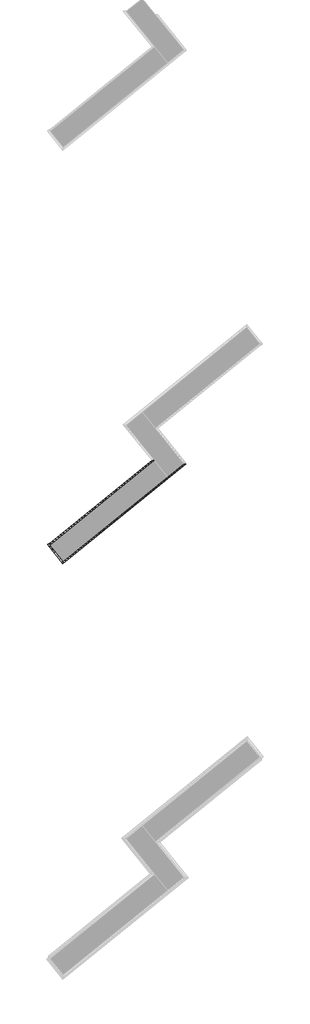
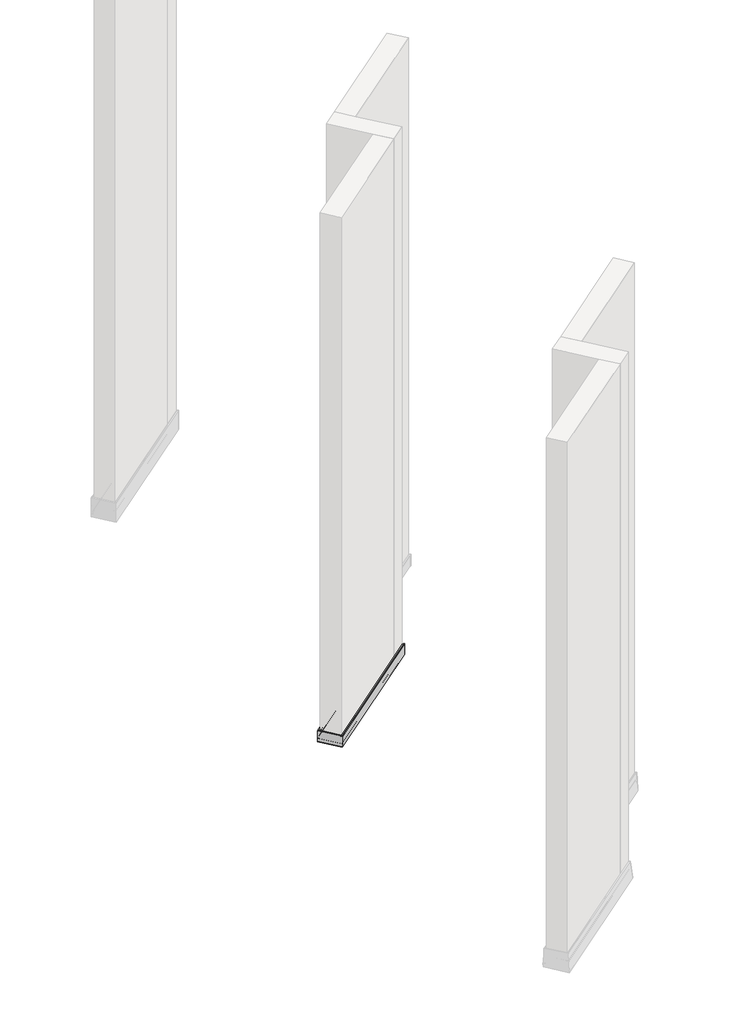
# One storey, part 6 of 21: 2 proxies.
"""IFC4 building model written with IfcOpenShell, lengths in millimetres."""

from ifc_helpers import new_model, si_unit, frame, origin, place, context, project, spatial, circle_curve, ellipse_curve, element, save
from ifc_brep_helpers import plane_surface, cylinder_surface, advanced_brep

model = new_model("IFC4")

# Units and contexts
model_context = context("Model", 3, world=origin())
ifc_project = project(units=[si_unit("LENGTHUNIT", "METRE", prefix="MILLI")], contexts=[model_context])

# Site, building, storey
site = spatial("IfcSite", under=ifc_project)
building = spatial("IfcBuilding", under=site)
storey = spatial("IfcBuildingStorey", under=building, Name="Izofleks 2D View", Elevation=0.0)

# Proxies
placement = place(None, origin())
element("IfcBuildingElementProxy", 1, Name="Wall Sweeps", at=placement, inside=storey, context=model_context, shape_type="AdvancedBrep", body=[
    advanced_brep(
    [(2430.6173319, -7345.0603665, 49.8941385), (2432.307842, -7345.2380463, 56.3978398), (2433.6908876, -7345.3834102, 57.2161063), (2437.3944482, -7345.7726701, 57.2161063), (2437.3944482, -7345.7726701, 58.5), (2427.9711237, -7344.7822388, 58.5), (2427.9711237, -7344.7822388, 60.0), (2439.2228545, -7345.9648434, 60.0), (2439.2228545, -7345.9648434, 2.9583289), (2436.4094999, -7345.6691479, 2.9583289), (2436.4094999, -7345.6691479, 0.4656126), (2434.5810936, -7345.4769746, 0.4656126), (2434.5810936, -7345.4769746, 4.2583289), (2437.3944482, -7345.7726701, 4.2583289), (2437.3944482, -7345.7726701, 28.7655004), (2434.0080992, -7345.4167505, 28.7655004), (2433.7384472, -7345.3884089, 27.7479135), (2435.1018647, -7345.5317099, 27.7479135), (2435.7872524, -7345.603747, 27.1404306), (2433.0506843, -7345.3161221, 18.30079), (2435.3427515, -7345.5570281, 18.30079), (2435.3488299, -7345.557667, 16.99999), (2428.316906, -7344.818582, 16.99999), (2428.316906, -7344.818582, 0.0), (2426.4885138, -7344.6264102, 0.0), (2426.4885138, -7344.6264102, 54.99999), (2428.316906, -7344.818582, 53.99999), (2428.316906, -7344.818582, 47.88979), (2431.1767584, -7345.1191646, 47.88979), (2431.7634513, -7345.1808285, 48.7266957), (1772.674573, -7733.6599402, 49.8941385), (1772.0412823, -7734.1727689, 48.7266957), (1772.3654607, -7733.9102544, 47.88979), (1773.9456782, -7732.6306195, 47.88979), (1773.9456782, -7732.6306195, 53.99999), (1774.9559602, -7731.8125092, 54.99999), (1774.9559602, -7731.8125092, 0.0), (1773.9456782, -7732.6306195, 0.0), (1773.9456782, -7732.6306195, 16.99999), (1770.0601738, -7735.7770389, 16.99999), (1770.0635324, -7735.7743192, 18.30079), (1771.330019, -7734.7487385, 18.30079), (1769.8179225, -7735.9732101, 27.1404306), (1770.1966349, -7735.6665349, 27.7479135), (1770.9499942, -7735.0564766, 27.7479135), (1770.8009974, -7735.1771318, 28.7655004), (1768.929863, -7736.6923465, 28.7655004), (1768.929863, -7736.6923465, 4.2583289), (1770.4843881, -7735.4335169, 4.2583289), (1770.4843881, -7735.4335169, 0.4656126), (1769.4740984, -7736.2516335, 0.4656126), (1769.4740984, -7736.2516335, 2.9583289), (1767.9195733, -7737.510463, 2.9583289), (1767.9195733, -7737.510463, 60.0), (1774.136741, -7732.4758999, 60.0), (1774.136741, -7732.4758999, 58.5), (1768.929863, -7736.6923465, 58.5), (1768.929863, -7736.6923465, 57.2161063), (1770.9762733, -7735.0351961, 57.2161063), (1771.7404781, -7734.4163553, 56.3978398), (1843.1950864, -7820.7455216, 49.8941385), (1843.0174067, -7822.4360317, 56.3978398), (1842.8720427, -7823.8190773, 57.2161063), (1842.4827828, -7827.522638, 57.2161063), (1842.4827828, -7827.522638, 58.5), (1843.4732141, -7818.0993134, 58.5), (1843.4732141, -7818.0993134, 60.0), (1842.2906095, -7829.3510442, 60.0), (1842.2906095, -7829.3510442, 2.9583289), (1842.586305, -7826.5376896, 2.9583289), (1842.586305, -7826.5376896, 0.4656126), (1842.7784783, -7824.7092833, 0.4656126), (1842.7784783, -7824.7092833, 4.2583289), (1842.4827828, -7827.522638, 4.2583289), (1842.4827828, -7827.522638, 28.7655004), (1842.8387024, -7824.1362889, 28.7655004), (1842.867044, -7823.8666369, 27.7479135), (1842.723743, -7825.2300544, 27.7479135), (1842.6517059, -7825.9154421, 27.1404306), (1842.9393308, -7823.178874, 18.30079), (1842.6984248, -7825.4709412, 18.30079), (1842.6977859, -7825.4770196, 16.99999), (1843.4368709, -7818.4450957, 16.99999), (1843.4368709, -7818.4450957, 0.0), (1843.6290427, -7816.6167035, 0.0), (2348.7739176, -7407.5584493, 0.0), (1843.6290427, -7816.6167035, 54.99999), (1843.4368709, -7818.4450957, 53.99999), (1843.4368709, -7818.4450957, 47.88979), (1843.1362883, -7821.3049481, 47.88979), (1843.0746244, -7821.891641, 48.7266957), (1780.6970036, -7738.9021074, 0.0)],
    [
        (0, 1),
        (1, 2, ellipse_curve(frame((2433.6908876, -7345.3834102, 56.2161063), z_axis=(0.1045284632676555, 0.9945218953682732, 0.0), x_axis=(0.9945218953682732, -0.10452846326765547, 0.0)), 1.4142136, 1.0)),
        (2, 3),
        (3, 4),
        (4, 5),
        (5, 6),
        (6, 7),
        (7, 8),
        (8, 9),
        (9, 10),
        (10, 11),
        (11, 12),
        (12, 13),
        (13, 14),
        (14, 15),
        (15, 16),
        (16, 17),
        (17, 18, ellipse_curve(frame((2435.1004582, -7345.5315621, 27.2479135), z_axis=(0.1045284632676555, 0.9945218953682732, 0.0), x_axis=(0.9945218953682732, -0.10452846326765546, 0.0)), 0.7071082, 0.500001)),
        (18, 19),
        (19, 20),
        (20, 21, ellipse_curve(frame((2435.1785737, -7345.5397723, 17.649995), z_axis=(0.1045284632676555, 0.9945218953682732, 0.0), x_axis=(0.9945218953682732, -0.10452846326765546, 0.0)), 0.935051, 0.6611809)),
        (21, 22),
        (22, 23),
        (23, 24),
        (24, 25),
        (25, 26, ellipse_curve(frame((2426.8389918, -7344.663247, 53.9789482), z_axis=(0.1045284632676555, 0.9945218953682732, 0.0), x_axis=(0.9945218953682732, -0.10452846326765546, 0.0)), 1.4863528, 1.0510102)),
        (26, 27),
        (27, 28),
        (28, 29),
        (29, 0, ellipse_curve(frame((2432.0003775, -7345.2057304, 49.712405), z_axis=(0.1045284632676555, 0.9945218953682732, 0.0), x_axis=(0.9945218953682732, -0.10452846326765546, 0.0)), 1.4142136, 1.0)),
        (30, 31, circle_curve(frame((1771.9103682, -7734.278781, 49.712405), z_axis=(-0.629320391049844, 0.7771459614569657, 0.0), x_axis=(-0.7771459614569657, -0.629320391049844, 0.0)), 1.0)),
        (31, 32),
        (32, 33),
        (33, 34),
        (34, 35, circle_curve(frame((1774.7623028, -7731.9693299, 53.9789482), z_axis=(-0.629320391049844, 0.7771459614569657, 0.0), x_axis=(-0.7771459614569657, -0.629320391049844, 0.0)), 1.0510102)),
        (35, 36),
        (36, 37),
        (37, 38),
        (38, 39),
        (39, 40, circle_curve(frame((1770.1542492, -7735.7008582, 17.649995), z_axis=(-0.629320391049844, 0.7771459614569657, 0.0), x_axis=(-0.7771459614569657, -0.629320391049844, 0.0)), 0.6611809)),
        (40, 41),
        (41, 42),
        (42, 43, circle_curve(frame((1770.1974121, -7735.6659056, 27.2479135), z_axis=(-0.629320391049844, 0.7771459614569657, 0.0), x_axis=(-0.7771459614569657, -0.629320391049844, 0.0)), 0.500001)),
        (43, 44),
        (44, 45),
        (45, 46),
        (46, 47),
        (47, 48),
        (48, 49),
        (49, 50),
        (50, 51),
        (51, 52),
        (52, 53),
        (53, 54),
        (54, 55),
        (55, 56),
        (56, 57),
        (57, 58),
        (58, 59, circle_curve(frame((1770.9762733, -7735.0351961, 56.2161063), z_axis=(-0.629320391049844, 0.7771459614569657, 0.0), x_axis=(0.7642047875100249, 0.618840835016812, 0.1817334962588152)), 1.0)),
        (59, 30),
        (0, 60),
        (60, 61),
        (61, 1),
        (61, 62, ellipse_curve(frame((1842.8720427, -7823.8190773, 56.2161063), z_axis=(0.9945218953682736, -0.10452846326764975, 0.0), x_axis=(0.10452846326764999, 0.9945218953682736, 0.0)), 1.4142136, 1.0)),
        (62, 2),
        (62, 63),
        (63, 3),
        (63, 64),
        (64, 4),
        (64, 65),
        (65, 5),
        (65, 66),
        (66, 6),
        (66, 67),
        (67, 7),
        (67, 68),
        (68, 8),
        (68, 69),
        (69, 9),
        (69, 70),
        (70, 10),
        (70, 71),
        (71, 11),
        (71, 72),
        (72, 12),
        (72, 73),
        (73, 13),
        (73, 74),
        (74, 14),
        (74, 75),
        (75, 15),
        (75, 76),
        (76, 16),
        (76, 77),
        (77, 17),
        (77, 78, ellipse_curve(frame((1842.7238909, -7825.228648, 27.2479135), z_axis=(0.9945218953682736, -0.10452846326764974, 0.0), x_axis=(0.10452846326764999, 0.9945218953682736, 0.0)), 0.7071082, 0.500001)),
        (78, 18),
        (78, 79),
        (79, 19),
        (79, 80),
        (80, 20),
        (80, 81, ellipse_curve(frame((1842.7156806, -7825.3067635, 17.649995), z_axis=(0.9945218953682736, -0.10452846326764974, 0.0), x_axis=(0.10452846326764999, 0.9945218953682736, 0.0)), 0.935051, 0.6611809)),
        (81, 21),
        (81, 82),
        (82, 22),
        (82, 83),
        (83, 23),
        (83, 84),
        (84, 85),
        (85, 24),
        (84, 86),
        (86, 25),
        (86, 87, ellipse_curve(frame((1843.592206, -7816.9671816, 53.9789482), z_axis=(0.9945218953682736, -0.10452846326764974, 0.0), x_axis=(0.10452846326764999, 0.9945218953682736, 0.0)), 1.4863528, 1.0510102)),
        (87, 26),
        (87, 88),
        (88, 27),
        (88, 89),
        (89, 28),
        (89, 90),
        (90, 29),
        (90, 60, ellipse_curve(frame((1843.0497225, -7822.1285673, 49.712405), z_axis=(0.9945218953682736, -0.10452846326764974, 0.0), x_axis=(0.10452846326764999, 0.9945218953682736, 0.0)), 1.4142136, 1.0)),
        (60, 30),
        (59, 61),
        (58, 62),
        (57, 63),
        (56, 64),
        (55, 65),
        (54, 66),
        (53, 67),
        (52, 68),
        (51, 69),
        (50, 70),
        (49, 71),
        (48, 72),
        (47, 73),
        (46, 74),
        (45, 75),
        (44, 76),
        (43, 77),
        (42, 78),
        (41, 79),
        (40, 80),
        (39, 81),
        (38, 82),
        (37, 83),
        (36, 91),
        (91, 84),
        (35, 86),
        (34, 87),
        (33, 88),
        (32, 89),
        (31, 90),
    ],
    [
        plane_surface(frame((2426.4885138, -7344.6264102, 304.8), z_axis=(0.1045284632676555, 0.9945218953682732, 0.0), x_axis=(-0.9945218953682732, 0.1045284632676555, 0.0))),
        plane_surface(frame((2318.9581332, -7291.2882355, 0.0), z_axis=(-0.6293203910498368, 0.7771459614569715, 0.0), x_axis=(0.7771459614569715, 0.6293203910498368, 0.0))),
        plane_surface(frame((2430.6173319, -7345.0603665, 49.8941385), z_axis=(-0.6188408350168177, 0.7642047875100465, 0.18173349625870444), x_axis=(-0.7771459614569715, -0.6293203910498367, 0.0))),
        cylinder_surface(frame((2429.7112007, -7348.6060971, 56.2161063), z_axis=(0.7771459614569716, 0.629320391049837, 0.0), x_axis=(-0.618840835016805, 0.7642047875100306, 0.1817334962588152)), 1.0),
        plane_surface(frame((2433.6908876, -7345.3834102, 57.2161063), z_axis=(0.0, 0.0, 1.0), x_axis=(-0.7771459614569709, -0.6293203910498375, 0.0))),
        plane_surface(frame((2437.3944482, -7345.7726701, 57.2161063), z_axis=(-0.6293203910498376, 0.7771459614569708, 0.0), x_axis=(-0.7771459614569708, -0.6293203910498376, 0.0))),
        plane_surface(frame((2437.3944482, -7345.7726701, 58.5), z_axis=(0.0, 0.0, -1.0), x_axis=(-0.7771459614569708, -0.6293203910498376, 0.0))),
        plane_surface(frame((2427.9711237, -7344.7822388, 58.5), z_axis=(-0.6293203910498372, 0.7771459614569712, 0.0), x_axis=(-0.7771459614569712, -0.6293203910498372, 0.0))),
        plane_surface(frame((2427.9711237, -7344.7822388, 60.0), z_axis=(0.0, 0.0, 1.0000000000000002), x_axis=(-0.7771459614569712, -0.6293203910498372, 0.0))),
        plane_surface(frame((2439.2228545, -7345.9648434, 60.0), z_axis=(0.6293203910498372, -0.7771459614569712, 0.0), x_axis=(-0.7771459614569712, -0.6293203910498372, 0.0))),
        plane_surface(frame((2439.2228545, -7345.9648434, 2.9583289), z_axis=(0.0, 0.0, -1.0000000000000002), x_axis=(-0.7771459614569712, -0.6293203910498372, 0.0))),
        plane_surface(frame((2436.4094999, -7345.6691479, 2.9583289), z_axis=(0.6293203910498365, -0.7771459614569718, 0.0), x_axis=(-0.7771459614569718, -0.6293203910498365, 0.0))),
        plane_surface(frame((2436.4094999, -7345.6691479, 0.4656126), z_axis=(0.0, 0.0, -1.0), x_axis=(-0.7771459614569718, -0.6293203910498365, 0.0))),
        plane_surface(frame((2434.5810936, -7345.4769746, 0.4656126), z_axis=(-0.629320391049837, 0.7771459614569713, 0.0), x_axis=(-0.7771459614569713, -0.629320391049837, 0.0))),
        plane_surface(frame((2434.5810936, -7345.4769746, 4.2583289), z_axis=(0.0, 0.0, 1.0), x_axis=(-0.7771459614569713, -0.629320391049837, 0.0))),
        plane_surface(frame((2437.3944482, -7345.7726701, 4.2583289), z_axis=(-0.6293203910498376, 0.7771459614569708, 0.0), x_axis=(-0.7771459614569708, -0.6293203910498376, 0.0))),
        plane_surface(frame((2437.3944482, -7345.7726701, 28.7655004), z_axis=(0.0, 0.0, -1.0), x_axis=(-0.7771459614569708, -0.6293203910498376, 0.0))),
        plane_surface(frame((2434.0080992, -7345.4167505, 28.7655004), z_axis=(0.6184393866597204, -0.7637090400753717, -0.1851519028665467), x_axis=(-0.7771459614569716, -0.6293203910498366, 0.0))),
        plane_surface(frame((2433.7384472, -7345.3884089, 27.7479135), z_axis=(0.0, 0.0, 1.0), x_axis=(-0.7771459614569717, -0.6293203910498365, 0.0))),
        cylinder_surface(frame((2430.3419101, -7349.3849584, 27.2479135), z_axis=(0.7771459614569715, 0.6293203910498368, 0.0), x_axis=(0.6293203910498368, -0.7771459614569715, 0.0)), 0.500001),
        plane_surface(frame((2435.7872524, -7345.603747, 27.1404306), z_axis=(0.6146079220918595, -0.7589775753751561, -0.21496544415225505), x_axis=(-0.7771459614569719, -0.6293203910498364, 0.0))),
        plane_surface(frame((2433.0506843, -7345.3161221, 18.30079), z_axis=(0.0, 0.0, 1.0), x_axis=(-0.7771459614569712, -0.6293203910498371, 0.0))),
        cylinder_surface(frame((2430.3768627, -7349.4281213, 17.649995), z_axis=(0.7771459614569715, 0.6293203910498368, 0.0), x_axis=(0.6293203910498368, -0.7771459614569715, 0.0)), 0.6611809),
        plane_surface(frame((2435.3488299, -7345.557667, 16.99999), z_axis=(0.0, 0.0, -1.0000000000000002), x_axis=(-0.777145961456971, -0.6293203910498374, 0.0))),
        plane_surface(frame((2428.316906, -7344.818582, 16.99999), z_axis=(0.6293203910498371, -0.7771459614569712, 0.0), x_axis=(-0.7771459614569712, -0.6293203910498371, 0.0))),
        plane_surface(frame((2428.316906, -7344.818582, 0.0), z_axis=(0.0, 0.0, -1.0), x_axis=(-0.7771459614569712, -0.6293203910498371, 0.0))),
        plane_surface(frame((2426.4885138, -7344.6264102, 0.0), z_axis=(-0.629320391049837, 0.7771459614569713, 0.0), x_axis=(-0.7771459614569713, -0.629320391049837, 0.0))),
        cylinder_surface(frame((2426.6453344, -7344.8200676, 53.9789482), z_axis=(0.7771459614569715, 0.6293203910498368, 0.0), x_axis=(0.6293203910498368, -0.7771459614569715, 0.0)), 1.0510102),
        plane_surface(frame((2428.316906, -7344.818582, 53.99999), z_axis=(0.6293203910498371, -0.7771459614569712, 0.0), x_axis=(-0.7771459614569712, -0.6293203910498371, 0.0))),
        plane_surface(frame((2428.316906, -7344.818582, 47.88979), z_axis=(0.0, 0.0, 1.0), x_axis=(-0.7771459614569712, -0.6293203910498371, 0.0))),
        plane_surface(frame((2431.1767584, -7345.1191646, 47.88979), z_axis=(-0.5632343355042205, 0.6955364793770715, 0.44608977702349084), x_axis=(-0.7771459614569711, -0.6293203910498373, 0.0))),
        cylinder_surface(frame((2428.9547855, -7347.6720022, 49.712405), z_axis=(0.7771459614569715, 0.6293203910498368, 0.0), x_axis=(0.6293203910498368, -0.7771459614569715, 0.0)), 1.0),
        plane_surface(frame((1843.1950864, -7820.7455216, 49.8941385), z_axis=(0.7642047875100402, 0.6188408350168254, 0.18173349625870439), x_axis=(-0.6293203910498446, 0.777145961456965, 0.0))),
        cylinder_surface(frame((1839.6493558, -7819.8393904, 56.2161063), z_axis=(0.629320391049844, -0.7771459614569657, 0.0), x_axis=(0.7642047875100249, 0.618840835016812, 0.1817334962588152)), 1.0),
        plane_surface(frame((1842.8720427, -7823.8190773, 57.2161063), z_axis=(0.0, 0.0, 1.0000000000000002), x_axis=(-0.6293203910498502, 0.7771459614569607, 0.0))),
        plane_surface(frame((1842.4827828, -7827.522638, 57.2161063), z_axis=(0.7771459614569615, 0.629320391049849, 0.0), x_axis=(-0.629320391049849, 0.7771459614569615, 0.0))),
        plane_surface(frame((1842.4827828, -7827.522638, 58.5), z_axis=(0.0, 0.0, -1.0), x_axis=(-0.6293203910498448, 0.7771459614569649, 0.0))),
        plane_surface(frame((1843.4732141, -7818.0993134, 58.5), z_axis=(0.7771459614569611, 0.6293203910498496, 0.0), x_axis=(-0.6293203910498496, 0.7771459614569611, 0.0))),
        plane_surface(frame((1843.4732141, -7818.0993134, 60.0), z_axis=(0.0, 0.0, 1.0), x_axis=(-0.6293203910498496, 0.7771459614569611, 0.0))),
        plane_surface(frame((1842.2906095, -7829.3510442, 60.0), z_axis=(-0.7771459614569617, -0.6293203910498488, 0.0), x_axis=(-0.6293203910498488, 0.7771459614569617, 0.0))),
        plane_surface(frame((1842.2906095, -7829.3510442, 2.9583289), z_axis=(0.0, 0.0, -1.0), x_axis=(-0.6293203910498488, 0.7771459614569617, 0.0))),
        plane_surface(frame((1842.586305, -7826.5376896, 2.9583289), z_axis=(-0.777145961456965, -0.6293203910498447, 0.0), x_axis=(-0.6293203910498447, 0.777145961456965, 0.0))),
        plane_surface(frame((1842.586305, -7826.5376896, 0.4656126), z_axis=(0.0, 0.0, -1.0), x_axis=(-0.6293203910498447, 0.777145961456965, 0.0))),
        plane_surface(frame((1842.7784783, -7824.7092833, 0.4656126), z_axis=(0.7771459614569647, 0.6293203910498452, 0.0), x_axis=(-0.6293203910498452, 0.7771459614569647, 0.0))),
        plane_surface(frame((1842.7784783, -7824.7092833, 4.2583289), z_axis=(0.0, 0.0, 1.0), x_axis=(-0.6293203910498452, 0.7771459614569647, 0.0))),
        plane_surface(frame((1842.4827828, -7827.522638, 4.2583289), z_axis=(0.7771459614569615, 0.629320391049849, 0.0), x_axis=(-0.629320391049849, 0.7771459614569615, 0.0))),
        plane_surface(frame((1842.4827828, -7827.522638, 28.7655004), z_axis=(0.0, 0.0, -1.0), x_axis=(-0.629320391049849, 0.7771459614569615, 0.0))),
        plane_surface(frame((1842.8387024, -7824.1362889, 28.7655004), z_axis=(-0.7637090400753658, -0.6184393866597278, -0.1851519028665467), x_axis=(-0.629320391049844, 0.7771459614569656, 0.0))),
        plane_surface(frame((1842.867044, -7823.8666369, 27.7479135), z_axis=(0.0, 0.0, 1.0), x_axis=(-0.6293203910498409, 0.777145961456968, 0.0))),
        cylinder_surface(frame((1838.8704946, -7820.4700998, 27.2479135), z_axis=(0.629320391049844, -0.7771459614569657, 0.0), x_axis=(-0.7771459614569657, -0.629320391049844, 0.0)), 0.500001),
        plane_surface(frame((1842.6517059, -7825.9154421, 27.1404306), z_axis=(-0.7589775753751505, -0.6146079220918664, -0.214965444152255), x_axis=(-0.6293203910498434, 0.7771459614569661, 0.0))),
        plane_surface(frame((1842.9393308, -7823.178874, 18.30079), z_axis=(0.0, 0.0, 1.0), x_axis=(-0.6293203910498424, 0.7771459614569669, 0.0))),
        cylinder_surface(frame((1838.8273317, -7820.5050524, 17.649995), z_axis=(0.629320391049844, -0.7771459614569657, 0.0), x_axis=(-0.7771459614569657, -0.629320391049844, 0.0)), 0.6611809),
        plane_surface(frame((1842.6977859, -7825.4770196, 16.99999), z_axis=(0.0, 0.0, -1.0000000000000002), x_axis=(-0.6293203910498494, 0.7771459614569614, 0.0))),
        plane_surface(frame((1843.4368709, -7818.4450957, 16.99999), z_axis=(-0.7771459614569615, -0.6293203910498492, 0.0), x_axis=(-0.6293203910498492, 0.7771459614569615, 0.0))),
        plane_surface(frame((1843.4368709, -7818.4450957, 0.0), z_axis=(0.0, 0.0, -1.0), x_axis=(-0.6293203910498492, 0.7771459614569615, 0.0))),
        plane_surface(frame((1843.6290427, -7816.6167035, 0.0), z_axis=(0.7771459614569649, 0.6293203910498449, 0.0), x_axis=(-0.6293203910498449, 0.7771459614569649, 0.0))),
        cylinder_surface(frame((1843.4353853, -7816.7735242, 53.9789482), z_axis=(0.629320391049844, -0.7771459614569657, 0.0), x_axis=(-0.7771459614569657, -0.629320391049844, 0.0)), 1.0510102),
        plane_surface(frame((1843.4368709, -7818.4450957, 53.99999), z_axis=(-0.7771459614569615, -0.6293203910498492, 0.0), x_axis=(-0.6293203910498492, 0.7771459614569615, 0.0))),
        plane_surface(frame((1843.4368709, -7818.4450957, 47.88979), z_axis=(0.0, 0.0, 1.0), x_axis=(-0.6293203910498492, 0.7771459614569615, 0.0))),
        plane_surface(frame((1843.1362883, -7821.3049481, 47.88979), z_axis=(0.6955364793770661, 0.5632343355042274, 0.44608977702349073), x_axis=(-0.6293203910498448, 0.7771459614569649, 0.0))),
        cylinder_surface(frame((1840.5834507, -7819.0829753, 49.712405), z_axis=(0.629320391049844, -0.7771459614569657, 0.0), x_axis=(-0.7771459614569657, -0.629320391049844, 0.0)), 1.0),
    ],
    [
        (0, [[1, 2, 3, 4, 5, 6, 7, 8, 9, 10, 11, 12, 13, 14, 15, 16, 17, 18, 19, 20, 21, 22, 23, 24, 25, 26, 27, 28, 29, 30]]),
        (1, [[31, 32, 33, 34, 35, 36, 37, 38, 39, 40, 41, 42, 43, 44, 45, 46, 47, 48, 49, 50, 51, 52, 53, 54, 55, 56, 57, 58, 59, 60]]),
        (2, [[-1, 61, 62, 63]]),
        (3, [[-2, -63, 64, 65]]),
        (4, [[-3, -65, 66, 67]]),
        (5, [[-4, -67, 68, 69]]),
        (6, [[-5, -69, 70, 71]]),
        (7, [[-6, -71, 72, 73]]),
        (8, [[-7, -73, 74, 75]]),
        (9, [[-8, -75, 76, 77]]),
        (10, [[-9, -77, 78, 79]]),
        (11, [[-10, -79, 80, 81]]),
        (12, [[-11, -81, 82, 83]]),
        (13, [[-12, -83, 84, 85]]),
        (14, [[-13, -85, 86, 87]]),
        (15, [[-14, -87, 88, 89]]),
        (16, [[-15, -89, 90, 91]]),
        (17, [[-16, -91, 92, 93]]),
        (18, [[-17, -93, 94, 95]]),
        (19, [[-18, -95, 96, 97]]),
        (20, [[-19, -97, 98, 99]]),
        (21, [[-20, -99, 100, 101]]),
        (22, [[-21, -101, 102, 103]]),
        (23, [[-22, -103, 104, 105]]),
        (24, [[-23, -105, 106, 107]]),
        (25, [[-24, -107, 108, 109, 110]]),
        (26, [[-25, -110, -109, 111, 112]]),
        (27, [[-26, -112, 113, 114]]),
        (28, [[-27, -114, 115, 116]]),
        (29, [[-28, -116, 117, 118]]),
        (30, [[-29, -118, 119, 120]]),
        (31, [[-30, -120, 121, -61]]),
        (32, [[-62, 122, -60, 123]]),
        (33, [[-64, -123, -59, 124]]),
        (34, [[-66, -124, -58, 125]]),
        (35, [[-68, -125, -57, 126]]),
        (36, [[-70, -126, -56, 127]]),
        (37, [[-72, -127, -55, 128]]),
        (38, [[-74, -128, -54, 129]]),
        (39, [[-76, -129, -53, 130]]),
        (40, [[-78, -130, -52, 131]]),
        (41, [[-80, -131, -51, 132]]),
        (42, [[-82, -132, -50, 133]]),
        (43, [[-84, -133, -49, 134]]),
        (44, [[-86, -134, -48, 135]]),
        (45, [[-88, -135, -47, 136]]),
        (46, [[-90, -136, -46, 137]]),
        (47, [[-92, -137, -45, 138]]),
        (48, [[-94, -138, -44, 139]]),
        (49, [[-96, -139, -43, 140]]),
        (50, [[-98, -140, -42, 141]]),
        (51, [[-100, -141, -41, 142]]),
        (52, [[-102, -142, -40, 143]]),
        (53, [[-104, -143, -39, 144]]),
        (54, [[-106, -144, -38, 145]]),
        (55, [[-108, -145, -37, 146, 147]]),
        (56, [[-111, -147, -146, -36, 148]]),
        (57, [[-113, -148, -35, 149]]),
        (58, [[-115, -149, -34, 150]]),
        (59, [[-117, -150, -33, 151]]),
        (60, [[-119, -151, -32, 152]]),
        (61, [[-121, -152, -31, -122]]),
    ],
),
])
element("IfcBuildingElementProxy", 2, Name="Wall Sweeps", at=placement, inside=storey, context=model_context, shape_type="AdvancedBrep", body=[
    advanced_brep(
    [(2281.7130604, -7329.4098969, 49.8941385), (2280.566941, -7329.2894349, 48.7266957), (2281.1536339, -7329.3510988, 47.88979), (2284.0134863, -7329.6516814, 47.88979), (2284.0134863, -7329.6516814, 53.99999), (2285.8418785, -7329.8438532, 54.99999), (2285.8418785, -7329.8438532, 0.0), (2284.0134863, -7329.6516814, 0.0), (2284.0134863, -7329.6516814, 16.99999), (2276.9815625, -7328.9125964, 16.99999), (2276.9876408, -7328.9132353, 18.30079), (2279.279708, -7329.1541413, 18.30079), (2276.54314, -7328.8665164, 27.1404306), (2277.2285276, -7328.9385535, 27.7479135), (2278.5919451, -7329.0818545, 27.7479135), (2278.3222931, -7329.0535129, 28.7655004), (2274.9359441, -7328.6975933, 28.7655004), (2274.9359441, -7328.6975933, 4.2583289), (2277.7492987, -7328.9932888, 4.2583289), (2277.7492987, -7328.9932888, 0.4656126), (2275.9208925, -7328.8011155, 0.4656126), (2275.9208925, -7328.8011155, 2.9583289), (2273.1075378, -7328.50542, 2.9583289), (2273.1075378, -7328.50542, 60.0), (2284.3592686, -7329.6880246, 60.0), (2284.3592686, -7329.6880246, 58.5), (2274.9359441, -7328.6975933, 58.5), (2274.9359441, -7328.6975933, 57.2161063), (2278.6395047, -7329.0868532, 57.2161063), (2280.0225504, -7329.2322171, 56.3978398), (1778.8495727, -7736.6207202, 49.8941385), (1778.0931575, -7735.6866253, 56.3978398), (1777.4743167, -7734.9224205, 57.2161063), (1775.8171663, -7732.8760102, 57.2161063), (1775.8171663, -7732.8760102, 58.5), (1780.0336129, -7738.0828881, 58.5), (1780.0336129, -7738.0828881, 60.0), (1774.9990498, -7731.8657204, 60.0), (1774.9990498, -7731.8657204, 2.9583289), (1776.2578794, -7733.4202455, 2.9583289), (1776.2578794, -7733.4202455, 0.4656126), (1777.0759959, -7734.4305353, 0.4656126), (1777.0759959, -7734.4305353, 4.2583289), (1775.8171663, -7732.8760102, 4.2583289), (1775.8171663, -7732.8760102, 28.7655004), (1777.332381, -7734.7471445, 28.7655004), (1777.4530362, -7734.8961413, 27.7479135), (1776.842978, -7734.1427821, 27.7479135), (1776.5363027, -7733.7640697, 27.1404306), (1777.7607743, -7735.2761662, 18.30079), (1776.7351937, -7734.0096796, 18.30079), (1776.7324739, -7734.006321, 16.99999), (1779.8788934, -7737.8918254, 16.99999), (1779.8788934, -7737.8918254, 0.0), (1780.6970036, -7738.9021074, 0.0), (1780.6970036, -7738.9021074, 54.99999), (1779.8788934, -7737.8918254, 53.99999), (1779.8788934, -7737.8918254, 47.88979), (1778.5992585, -7736.3116079, 47.88979), (1778.336744, -7735.9874295, 48.7266957)],
    [
        (0, 1, ellipse_curve(frame((2280.3300148, -7329.264533, 49.712405), z_axis=(0.1045284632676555, 0.9945218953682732, 0.0), x_axis=(0.9945218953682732, -0.10452846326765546, 0.0)), 1.4142136, 1.0)),
        (1, 2),
        (2, 3),
        (3, 4),
        (4, 5, ellipse_curve(frame((2285.4914005, -7329.8070165, 53.9789482), z_axis=(0.1045284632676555, 0.9945218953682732, 0.0), x_axis=(0.9945218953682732, -0.10452846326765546, 0.0)), 1.4863528, 1.0510102)),
        (5, 6),
        (6, 7),
        (7, 8),
        (8, 9),
        (9, 10, ellipse_curve(frame((2277.1518186, -7328.9304911, 17.649995), z_axis=(0.1045284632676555, 0.9945218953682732, 0.0), x_axis=(0.9945218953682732, -0.10452846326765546, 0.0)), 0.935051, 0.6611809)),
        (10, 11),
        (11, 12),
        (12, 13, ellipse_curve(frame((2277.2299341, -7328.9387013, 27.2479135), z_axis=(0.1045284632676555, 0.9945218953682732, 0.0), x_axis=(0.9945218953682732, -0.10452846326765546, 0.0)), 0.7071082, 0.500001)),
        (13, 14),
        (14, 15),
        (15, 16),
        (16, 17),
        (17, 18),
        (18, 19),
        (19, 20),
        (20, 21),
        (21, 22),
        (22, 23),
        (23, 24),
        (24, 25),
        (25, 26),
        (26, 27),
        (27, 28),
        (28, 29, ellipse_curve(frame((2278.6395047, -7329.0868532, 56.2161063), z_axis=(0.1045284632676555, 0.9945218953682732, 0.0), x_axis=(0.9945218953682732, -0.10452846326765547, 0.0)), 1.4142136, 1.0)),
        (29, 0),
        (30, 31),
        (31, 32, circle_curve(frame((1777.4743167, -7734.9224205, 56.2161063), z_axis=(-0.7771459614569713, -0.6293203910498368, 0.0), x_axis=(0.618840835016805, -0.7642047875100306, 0.1817334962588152)), 1.0)),
        (32, 33),
        (33, 34),
        (34, 35),
        (35, 36),
        (36, 37),
        (37, 38),
        (38, 39),
        (39, 40),
        (40, 41),
        (41, 42),
        (42, 43),
        (43, 44),
        (44, 45),
        (45, 46),
        (46, 47),
        (47, 48, circle_curve(frame((1776.8436073, -7734.1435592, 27.2479135), z_axis=(-0.7771459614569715, -0.6293203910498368, 0.0), x_axis=(-0.6293203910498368, 0.7771459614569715, 0.0)), 0.500001)),
        (48, 49),
        (49, 50),
        (50, 51, circle_curve(frame((1776.8086547, -7734.1003963, 17.649995), z_axis=(-0.7771459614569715, -0.6293203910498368, 0.0), x_axis=(-0.6293203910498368, 0.7771459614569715, 0.0)), 0.6611809)),
        (51, 52),
        (52, 53),
        (53, 54),
        (54, 55),
        (55, 56, circle_curve(frame((1780.5401829, -7738.70845, 53.9789482), z_axis=(-0.7771459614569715, -0.6293203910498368, 0.0), x_axis=(-0.6293203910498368, 0.7771459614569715, 0.0)), 1.0510102)),
        (56, 57),
        (57, 58),
        (58, 59),
        (59, 30, circle_curve(frame((1778.2307318, -7735.8565154, 49.712405), z_axis=(-0.7771459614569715, -0.6293203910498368, 0.0), x_axis=(-0.6293203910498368, 0.7771459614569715, 0.0)), 1.0)),
        (0, 30),
        (59, 1),
        (58, 2),
        (57, 3),
        (56, 4),
        (55, 5),
        (54, 6),
        (53, 7),
        (52, 8),
        (51, 9),
        (50, 10),
        (49, 11),
        (48, 12),
        (47, 13),
        (46, 14),
        (45, 15),
        (44, 16),
        (43, 17),
        (42, 18),
        (41, 19),
        (40, 20),
        (39, 21),
        (38, 22),
        (37, 23),
        (36, 24),
        (35, 25),
        (34, 26),
        (33, 27),
        (32, 28),
        (31, 29),
    ],
    [
        plane_surface(frame((2285.8418785, -7329.8438532, 304.8), z_axis=(0.1045284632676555, 0.9945218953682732, 0.0), x_axis=(-0.9945218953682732, 0.1045284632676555, 0.0))),
        plane_surface(frame((1780.6970036, -7738.9021074, -60.6792998), z_axis=(-0.7771459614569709, -0.6293203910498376, 0.0), x_axis=(0.6293203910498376, -0.7771459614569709, 0.0))),
        cylinder_surface(frame((2283.3756068, -7326.7982612, 49.712405), z_axis=(0.7771459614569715, 0.6293203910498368, 0.0), x_axis=(-0.6293203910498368, 0.7771459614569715, 0.0)), 1.0),
        plane_surface(frame((2280.566941, -7329.2894349, 48.7266957), z_axis=(0.563234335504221, -0.6955364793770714, 0.44608977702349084), x_axis=(-0.7771459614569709, -0.6293203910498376, 0.0))),
        plane_surface(frame((2281.1536339, -7329.3510988, 47.88979), z_axis=(0.0, 0.0, 1.0000000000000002), x_axis=(-0.7771459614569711, -0.6293203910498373, 0.0))),
        plane_surface(frame((2284.0134863, -7329.6516814, 47.88979), z_axis=(-0.6293203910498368, 0.7771459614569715, 0.0), x_axis=(-0.7771459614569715, -0.6293203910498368, 0.0))),
        cylinder_surface(frame((2285.6850579, -7329.6501958, 53.9789482), z_axis=(0.7771459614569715, 0.6293203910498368, 0.0), x_axis=(-0.6293203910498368, 0.7771459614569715, 0.0)), 1.0510102),
        plane_surface(frame((2285.8418785, -7329.8438532, 54.99999), z_axis=(0.6293203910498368, -0.7771459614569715, 0.0), x_axis=(-0.7771459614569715, -0.6293203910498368, 0.0))),
        plane_surface(frame((2285.8418785, -7329.8438532, 0.0), z_axis=(0.0, 0.0, -1.0000000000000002), x_axis=(-0.7771459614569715, -0.6293203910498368, 0.0))),
        plane_surface(frame((2284.0134863, -7329.6516814, 0.0), z_axis=(-0.6293203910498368, 0.7771459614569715, 0.0), x_axis=(-0.7771459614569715, -0.6293203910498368, 0.0))),
        plane_surface(frame((2284.0134863, -7329.6516814, 16.99999), z_axis=(0.0, 0.0, -1.0000000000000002), x_axis=(-0.7771459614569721, -0.6293203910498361, 0.0))),
        cylinder_surface(frame((2281.9535296, -7325.0421421, 17.649995), z_axis=(0.7771459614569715, 0.6293203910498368, 0.0), x_axis=(-0.6293203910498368, 0.7771459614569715, 0.0)), 0.6611809),
        plane_surface(frame((2276.9876408, -7328.9132353, 18.30079), z_axis=(0.0, 0.0, 1.0), x_axis=(-0.7771459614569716, -0.6293203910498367, 0.0))),
        plane_surface(frame((2279.279708, -7329.1541413, 18.30079), z_axis=(-0.6146079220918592, 0.7589775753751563, -0.21496544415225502), x_axis=(-0.7771459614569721, -0.6293203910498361, 0.0))),
        cylinder_surface(frame((2281.9884822, -7325.085305, 27.2479135), z_axis=(0.7771459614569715, 0.6293203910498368, 0.0), x_axis=(-0.6293203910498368, 0.7771459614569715, 0.0)), 0.500001),
        plane_surface(frame((2277.2285276, -7328.9385535, 27.7479135), z_axis=(0.0, 0.0, 1.0000000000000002), x_axis=(-0.7771459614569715, -0.6293203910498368, 0.0))),
        plane_surface(frame((2278.5919451, -7329.0818545, 27.7479135), z_axis=(-0.618439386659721, 0.7637090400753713, -0.18515190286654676), x_axis=(-0.7771459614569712, -0.6293203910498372, 0.0))),
        plane_surface(frame((2278.3222931, -7329.0535129, 28.7655004), z_axis=(0.0, 0.0, -1.0), x_axis=(-0.7771459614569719, -0.6293203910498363, 0.0))),
        plane_surface(frame((2274.9359441, -7328.6975933, 28.7655004), z_axis=(0.6293203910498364, -0.7771459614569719, 0.0), x_axis=(-0.7771459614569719, -0.6293203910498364, 0.0))),
        plane_surface(frame((2274.9359441, -7328.6975933, 4.2583289), z_axis=(0.0, 0.0, 1.0000000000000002), x_axis=(-0.7771459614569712, -0.6293203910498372, 0.0))),
        plane_surface(frame((2277.7492987, -7328.9932888, 4.2583289), z_axis=(0.6293203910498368, -0.7771459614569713, 0.0), x_axis=(-0.7771459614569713, -0.6293203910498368, 0.0))),
        plane_surface(frame((2277.7492987, -7328.9932888, 0.4656126), z_axis=(0.0, 0.0, -1.0), x_axis=(-0.7771459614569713, -0.6293203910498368, 0.0))),
        plane_surface(frame((2275.9208925, -7328.8011155, 0.4656126), z_axis=(-0.6293203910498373, 0.7771459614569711, 0.0), x_axis=(-0.7771459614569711, -0.6293203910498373, 0.0))),
        plane_surface(frame((2275.9208925, -7328.8011155, 2.9583289), z_axis=(0.0, 0.0, -1.0), x_axis=(-0.7771459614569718, -0.6293203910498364, 0.0))),
        plane_surface(frame((2273.1075378, -7328.50542, 2.9583289), z_axis=(-0.6293203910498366, 0.7771459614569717, 0.0), x_axis=(-0.7771459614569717, -0.6293203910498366, 0.0))),
        plane_surface(frame((2273.1075378, -7328.50542, 60.0), z_axis=(0.0, 0.0, 1.0), x_axis=(-0.7771459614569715, -0.6293203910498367, 0.0))),
        plane_surface(frame((2284.3592686, -7329.6880246, 60.0), z_axis=(0.6293203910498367, -0.7771459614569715, 0.0), x_axis=(-0.7771459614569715, -0.6293203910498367, 0.0))),
        plane_surface(frame((2284.3592686, -7329.6880246, 58.5), z_axis=(0.0, 0.0, -1.0), x_axis=(-0.7771459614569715, -0.6293203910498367, 0.0))),
        plane_surface(frame((2274.9359441, -7328.6975933, 58.5), z_axis=(0.6293203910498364, -0.7771459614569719, 0.0), x_axis=(-0.7771459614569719, -0.6293203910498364, 0.0))),
        plane_surface(frame((2274.9359441, -7328.6975933, 57.2161063), z_axis=(0.0, 0.0, 1.0), x_axis=(-0.7771459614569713, -0.629320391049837, 0.0))),
        cylinder_surface(frame((2282.6191916, -7325.8641663, 56.2161063), z_axis=(0.7771459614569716, 0.629320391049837, 0.0), x_axis=(0.618840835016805, -0.7642047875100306, 0.1817334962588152)), 1.0),
        plane_surface(frame((2280.0225504, -7329.2322171, 56.3978398), z_axis=(0.6188408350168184, -0.7642047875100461, 0.18173349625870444), x_axis=(-0.777145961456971, -0.6293203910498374, 0.0))),
    ],
    [
        (0, [[1, 2, 3, 4, 5, 6, 7, 8, 9, 10, 11, 12, 13, 14, 15, 16, 17, 18, 19, 20, 21, 22, 23, 24, 25, 26, 27, 28, 29, 30]]),
        (1, [[31, 32, 33, 34, 35, 36, 37, 38, 39, 40, 41, 42, 43, 44, 45, 46, 47, 48, 49, 50, 51, 52, 53, 54, 55, 56, 57, 58, 59, 60]]),
        (2, [[-1, 61, -60, 62]]),
        (3, [[-2, -62, -59, 63]]),
        (4, [[-3, -63, -58, 64]]),
        (5, [[-4, -64, -57, 65]]),
        (6, [[-5, -65, -56, 66]]),
        (7, [[-6, -66, -55, 67]]),
        (8, [[-7, -67, -54, 68]]),
        (9, [[-8, -68, -53, 69]]),
        (10, [[-9, -69, -52, 70]]),
        (11, [[-10, -70, -51, 71]]),
        (12, [[-11, -71, -50, 72]]),
        (13, [[-12, -72, -49, 73]]),
        (14, [[-13, -73, -48, 74]]),
        (15, [[-14, -74, -47, 75]]),
        (16, [[-15, -75, -46, 76]]),
        (17, [[-16, -76, -45, 77]]),
        (18, [[-17, -77, -44, 78]]),
        (19, [[-18, -78, -43, 79]]),
        (20, [[-19, -79, -42, 80]]),
        (21, [[-20, -80, -41, 81]]),
        (22, [[-21, -81, -40, 82]]),
        (23, [[-22, -82, -39, 83]]),
        (24, [[-23, -83, -38, 84]]),
        (25, [[-24, -84, -37, 85]]),
        (26, [[-25, -85, -36, 86]]),
        (27, [[-26, -86, -35, 87]]),
        (28, [[-27, -87, -34, 88]]),
        (29, [[-28, -88, -33, 89]]),
        (30, [[-29, -89, -32, 90]]),
        (31, [[-30, -90, -31, -61]]),
    ],
),
])

save(model, "model.ifc")
